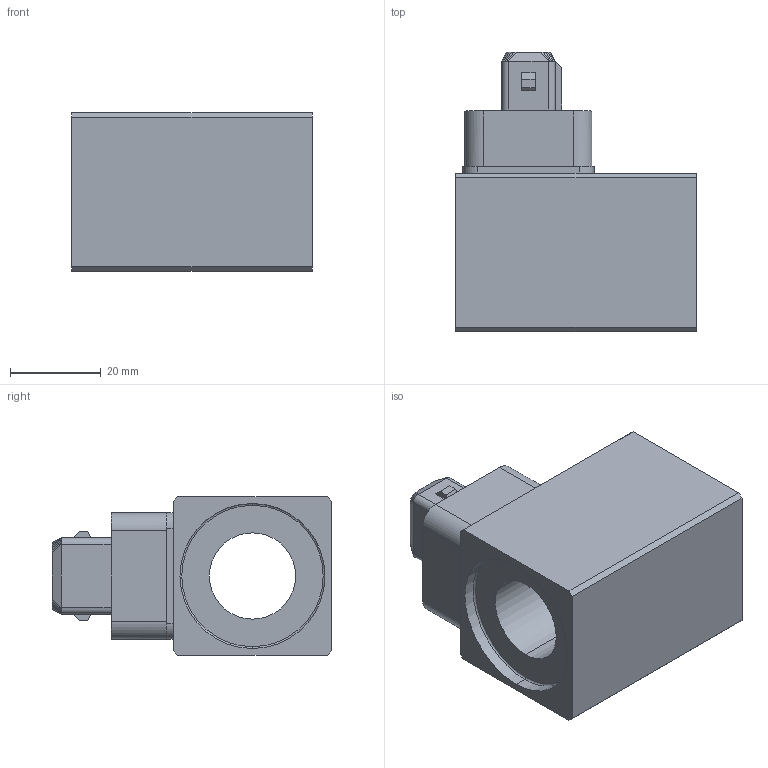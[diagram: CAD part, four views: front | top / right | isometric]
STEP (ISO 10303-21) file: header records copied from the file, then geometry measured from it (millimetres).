
FILE_DESCRIPTION (( 'STEP AP214' ), '1' );
FILE_NAME ('NJS35_19x50.STEP', '2015-07-28T13:47:55', ( '' ), ( '' ), 'SwSTEP 2.0', 'SolidWorks 2014', '' );
FILE_SCHEMA (( 'AUTOMOTIVE_DESIGN' ));
Length unit declared in the file: millimetre
Products named in the file (2): NJS35_19x50
Bounding box: 53 x 61.7 x 35 mm (x, y, z)
Volume: 59697.8 mm3; surface area: 16520.6 mm2
Topology: 2 solids, 5 shells, 241 faces, 615 edges, 398 vertices
Faces by surface type: plane 176, cylinder 48, bspline 9, torus 6, cone 2
Entity records: 9961 total; most frequent: CARTESIAN_POINT 1531, ORIENTED_EDGE 1230, DIRECTION 1171, EDGE_CURVE 615, LINE 439, VECTOR 439, VERTEX_POINT 398, AXIS2_PLACEMENT_3D 366
